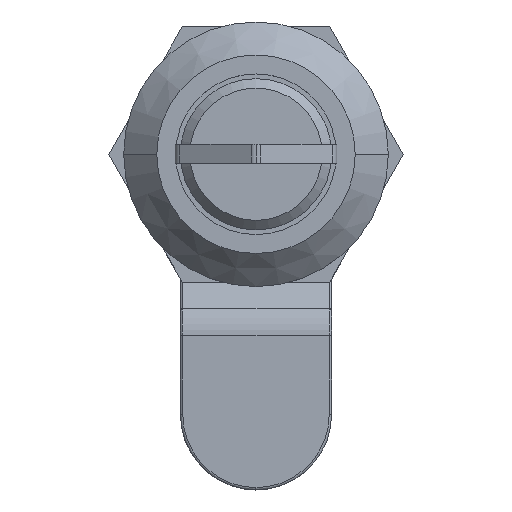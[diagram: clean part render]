
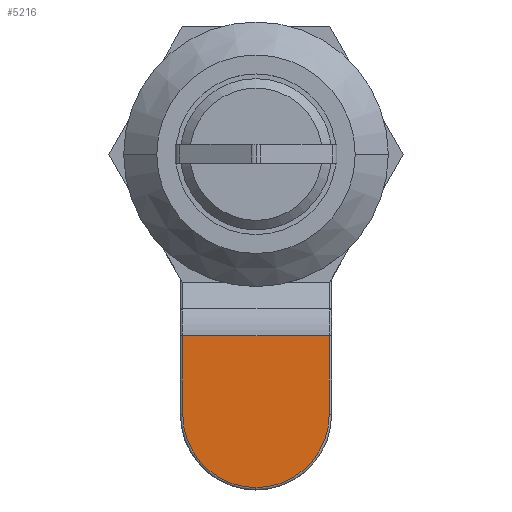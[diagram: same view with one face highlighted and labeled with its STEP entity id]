
A CAD part, top view. The second image highlights one B-rep face of the part: STEP entity #5216.
In plain terms, the highlighted planar face has unit normal (0, 0, 1).
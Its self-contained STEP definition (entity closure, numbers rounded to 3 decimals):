
#75 = CARTESIAN_POINT ( 'NONE',  ( 669.781, 846.612, 1257.364 ) ) ;
#303 = EDGE_CURVE ( 'NONE', #5340, #1137, #5147, .T. ) ;
#362 = VERTEX_POINT ( 'NONE', #871 ) ;
#432 = DIRECTION ( 'NONE',  ( 0., -1., 0. ) ) ;
#544 = DIRECTION ( 'NONE',  ( 0., 0., 1. ) ) ;
#777 = CARTESIAN_POINT ( 'NONE',  ( 654.281, 838.269, 1257.364 ) ) ;
#795 = VECTOR ( 'NONE', #2015, 1000. ) ;
#871 = CARTESIAN_POINT ( 'NONE',  ( 662.031, 830.519, 1257.364 ) ) ;
#930 = DIRECTION ( 'NONE',  ( 0., 0., -1. ) ) ;
#936 = CARTESIAN_POINT ( 'NONE',  ( 662.031, 838.269, 1257.364 ) ) ;
#980 = DIRECTION ( 'NONE',  ( -1., 0., 0. ) ) ;
#1137 = VERTEX_POINT ( 'NONE', #75 ) ;
#1401 = CARTESIAN_POINT ( 'NONE',  ( 654.031, 830.269, 1257.364 ) ) ;
#1694 = ORIENTED_EDGE ( 'NONE', *, *, #303, .T. ) ;
#1825 = DIRECTION ( 'NONE',  ( -1., 0., 0. ) ) ;
#2015 = DIRECTION ( 'NONE',  ( 0., -1., 0. ) ) ;
#2071 = CARTESIAN_POINT ( 'NONE',  ( 654.281, 830.269, 1257.364 ) ) ;
#2438 = VECTOR ( 'NONE', #4030, 1000. ) ;
#2440 = ORIENTED_EDGE ( 'NONE', *, *, #3549, .T. ) ;
#2593 = VERTEX_POINT ( 'NONE', #777 ) ;
#2723 = EDGE_LOOP ( 'NONE', ( #2808, #1694, #2440, #3379, #5422 ) ) ;
#2808 = ORIENTED_EDGE ( 'NONE', *, *, #3107, .T. ) ;
#2869 = AXIS2_PLACEMENT_3D ( 'NONE', #3043, #3096, #4404 ) ;
#3043 = CARTESIAN_POINT ( 'NONE',  ( 662.031, 838.269, 1257.364 ) ) ;
#3096 = DIRECTION ( 'NONE',  ( 0., 0., 1. ) ) ;
#3107 = EDGE_CURVE ( 'NONE', #362, #5340, #4701, .T. ) ;
#3332 = CIRCLE ( 'NONE', #2869, 7.75 ) ;
#3379 = ORIENTED_EDGE ( 'NONE', *, *, #3627, .T. ) ;
#3438 = CARTESIAN_POINT ( 'NONE',  ( 669.781, 846.612, 1257.364 ) ) ;
#3549 = EDGE_CURVE ( 'NONE', #1137, #4810, #5029, .T. ) ;
#3627 = EDGE_CURVE ( 'NONE', #4810, #2593, #5589, .T. ) ;
#3769 = EDGE_CURVE ( 'NONE', #2593, #362, #3332, .T. ) ;
#4000 = CARTESIAN_POINT ( 'NONE',  ( 654.281, 846.612, 1257.364 ) ) ;
#4030 = DIRECTION ( 'NONE',  ( 0., 1., 0. ) ) ;
#4278 = VECTOR ( 'NONE', #980, 1000. ) ;
#4404 = DIRECTION ( 'NONE',  ( -1., 0., 0. ) ) ;
#4701 = CIRCLE ( 'NONE', #5281, 7.75 ) ;
#4810 = VERTEX_POINT ( 'NONE', #4000 ) ;
#5029 = LINE ( 'NONE', #5509, #4278 ) ;
#5031 = AXIS2_PLACEMENT_3D ( 'NONE', #1401, #930, #432 ) ;
#5101 = CARTESIAN_POINT ( 'NONE',  ( 669.781, 838.269, 1257.364 ) ) ;
#5147 = LINE ( 'NONE', #3438, #2438 ) ;
#5216 = ADVANCED_FACE ( 'NONE', ( #5786 ), #5463, .F. ) ;
#5281 = AXIS2_PLACEMENT_3D ( 'NONE', #936, #544, #1825 ) ;
#5340 = VERTEX_POINT ( 'NONE', #5101 ) ;
#5422 = ORIENTED_EDGE ( 'NONE', *, *, #3769, .T. ) ;
#5463 = PLANE ( 'NONE',  #5031 ) ;
#5509 = CARTESIAN_POINT ( 'NONE',  ( 654.031, 846.612, 1257.364 ) ) ;
#5589 = LINE ( 'NONE', #2071, #795 ) ;
#5786 = FACE_OUTER_BOUND ( 'NONE', #2723, .T. ) ;
